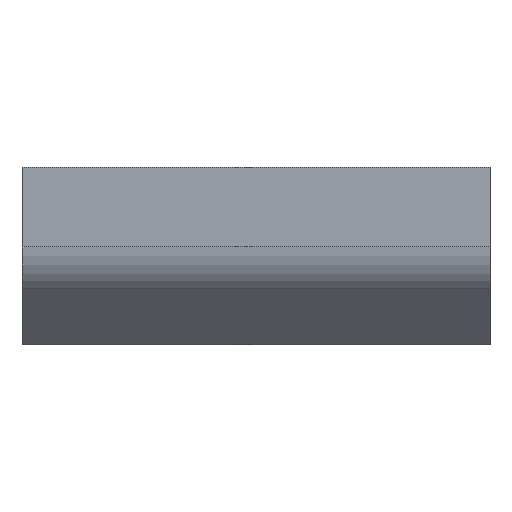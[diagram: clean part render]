
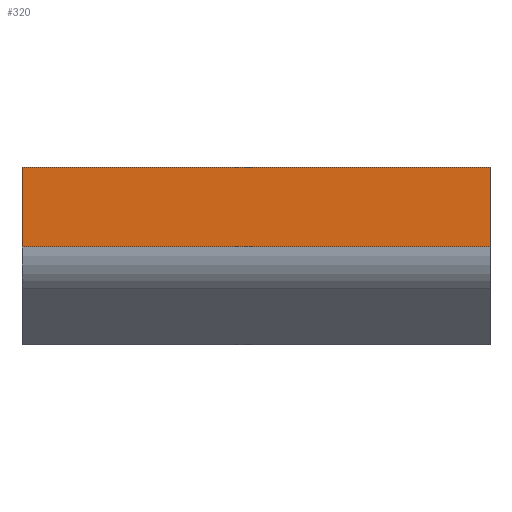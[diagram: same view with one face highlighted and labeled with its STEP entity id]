
A CAD part, front view. The second image highlights one B-rep face of the part: STEP entity #320.
In plain terms, the highlighted planar face has unit normal (0, -1, 0).
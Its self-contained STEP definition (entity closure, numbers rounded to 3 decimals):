
#47 = EDGE_CURVE ( 'NONE', #1235, #1477, #231, .T. ) ;
#62 = CARTESIAN_POINT ( 'NONE',  ( -300., -100., 0. ) ) ;
#81 = DIRECTION ( 'NONE',  ( -1., 0., 0. ) ) ;
#88 = CARTESIAN_POINT ( 'NONE',  ( 300., -100., -102.132 ) ) ;
#108 = CARTESIAN_POINT ( 'NONE',  ( 300., -100., 0. ) ) ;
#168 = DIRECTION ( 'NONE',  ( 0., 0., 1. ) ) ;
#184 = ORIENTED_EDGE ( 'NONE', *, *, #822, .F. ) ;
#225 = ORIENTED_EDGE ( 'NONE', *, *, #1096, .T. ) ;
#231 = LINE ( 'NONE', #88, #270 ) ;
#247 = CARTESIAN_POINT ( 'NONE',  ( -300., -100., -102.132 ) ) ;
#270 = VECTOR ( 'NONE', #81, 1000. ) ;
#288 = EDGE_LOOP ( 'NONE', ( #924, #903, #184, #225 ) ) ;
#293 = CARTESIAN_POINT ( 'NONE',  ( 300., -100., -102.132 ) ) ;
#318 = CARTESIAN_POINT ( 'NONE',  ( 300., -100., -102.132 ) ) ;
#320 = ADVANCED_FACE ( 'NONE', ( #1601 ), #805, .F. ) ;
#492 = CARTESIAN_POINT ( 'NONE',  ( 300., -100., -102.132 ) ) ;
#564 = VECTOR ( 'NONE', #1132, 1000. ) ;
#615 = LINE ( 'NONE', #492, #718 ) ;
#637 = CARTESIAN_POINT ( 'NONE',  ( 300., -100., 0. ) ) ;
#654 = EDGE_CURVE ( 'NONE', #1298, #1477, #751, .T. ) ;
#718 = VECTOR ( 'NONE', #1136, 1000. ) ;
#751 = LINE ( 'NONE', #247, #1272 ) ;
#767 = LINE ( 'NONE', #108, #564 ) ;
#805 = PLANE ( 'NONE',  #1302 ) ;
#822 = EDGE_CURVE ( 'NONE', #1603, #1235, #615, .T. ) ;
#903 = ORIENTED_EDGE ( 'NONE', *, *, #47, .F. ) ;
#924 = ORIENTED_EDGE ( 'NONE', *, *, #654, .T. ) ;
#1096 = EDGE_CURVE ( 'NONE', #1603, #1298, #767, .T. ) ;
#1132 = DIRECTION ( 'NONE',  ( -1., 0., 0. ) ) ;
#1136 = DIRECTION ( 'NONE',  ( 0., 0., -1. ) ) ;
#1235 = VERTEX_POINT ( 'NONE', #293 ) ;
#1272 = VECTOR ( 'NONE', #1426, 1000. ) ;
#1298 = VERTEX_POINT ( 'NONE', #62 ) ;
#1302 = AXIS2_PLACEMENT_3D ( 'NONE', #318, #1588, #168 ) ;
#1426 = DIRECTION ( 'NONE',  ( 0., 0., -1. ) ) ;
#1477 = VERTEX_POINT ( 'NONE', #1526 ) ;
#1526 = CARTESIAN_POINT ( 'NONE',  ( -300., -100., -102.132 ) ) ;
#1588 = DIRECTION ( 'NONE',  ( 0., 1., 0. ) ) ;
#1601 = FACE_OUTER_BOUND ( 'NONE', #288, .T. ) ;
#1603 = VERTEX_POINT ( 'NONE', #637 ) ;
